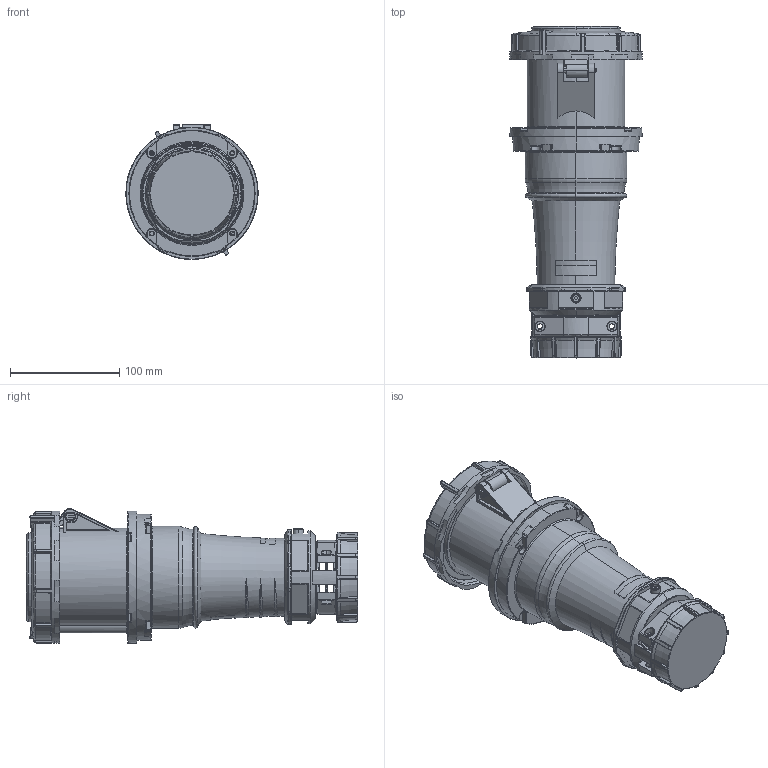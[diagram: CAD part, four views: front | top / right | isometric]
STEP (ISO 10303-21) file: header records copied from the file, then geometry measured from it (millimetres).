
FILE_DESCRIPTION (( 'STEP AP203' ), '1' );
FILE_NAME ('DIS31812546 (CS 4p 125ﾀ 400ﾂ IP67).STEP', '2024-08-15T06:10:10', ( '' ), ( '' ), 'SwSTEP 2.0', 'SolidWorks 2022', '' );
FILE_SCHEMA (( 'CONFIG_CONTROL_DESIGN' ));
Length unit declared in the file: millimetre
Products named in the file (1): DIS31812546 (CS 4p 125А 400В IP67)
Bounding box: 121 x 303.82 x 123.44 mm (x, y, z)
Volume: 1800566.1 mm3; surface area: 190689.1 mm2
Topology: 1 solids, 37 shells, 3351 faces, 8512 edges, 5106 vertices
Faces by surface type: cylinder 984, plane 961, bspline 520, torus 379, cone 326, sphere 181
Entity records: 126748 total; most frequent: CARTESIAN_POINT 52769, ORIENTED_EDGE 16680, DIRECTION 14101, EDGE_CURVE 8340, AXIS2_PLACEMENT_3D 5667, VERTEX_POINT 5091, EDGE_LOOP 3419, ADVANCED_FACE 3351
